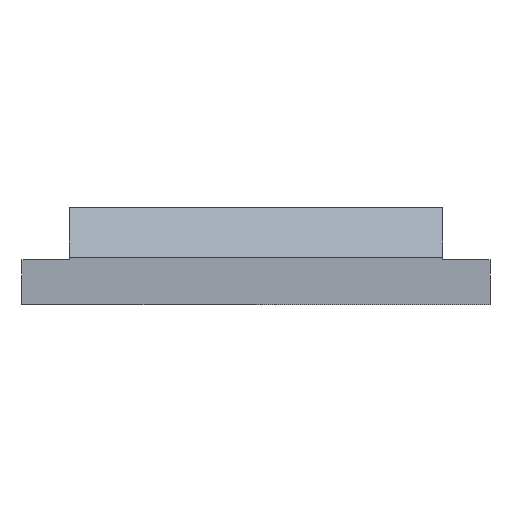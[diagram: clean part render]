
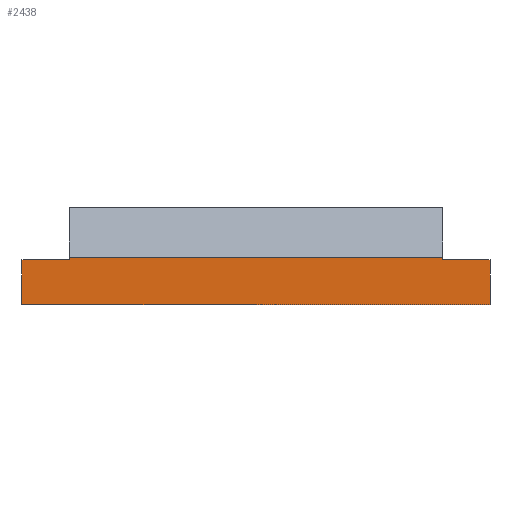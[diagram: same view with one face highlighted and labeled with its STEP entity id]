
A CAD part, front view. The second image highlights one B-rep face of the part: STEP entity #2438.
In plain terms, the highlighted planar face has unit normal (0, -1, 0).
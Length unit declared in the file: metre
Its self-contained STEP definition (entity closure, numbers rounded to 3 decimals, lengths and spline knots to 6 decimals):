
#430=ORIENTED_EDGE('',*,*,#1158,.F.);
#431=ORIENTED_EDGE('',*,*,#1187,.T.);
#432=ORIENTED_EDGE('',*,*,#1182,.T.);
#433=ORIENTED_EDGE('',*,*,#1188,.T.);
#434=ORIENTED_EDGE('',*,*,#1189,.F.);
#435=ORIENTED_EDGE('',*,*,#1168,.F.);
#436=ORIENTED_EDGE('',*,*,#1190,.T.);
#437=ORIENTED_EDGE('',*,*,#1191,.T.);
#1158=EDGE_CURVE('',#1542,#1543,#1720,.T.);
#1168=EDGE_CURVE('',#1551,#1552,#1730,.T.);
#1182=EDGE_CURVE('',#1562,#1561,#1744,.T.);
#1187=EDGE_CURVE('',#1542,#1562,#1749,.T.);
#1188=EDGE_CURVE('',#1561,#1563,#1750,.T.);
#1189=EDGE_CURVE('',#1552,#1563,#1751,.T.);
#1190=EDGE_CURVE('',#1551,#1564,#1752,.T.);
#1191=EDGE_CURVE('',#1564,#1543,#1753,.T.);
#1542=VERTEX_POINT('',#3810);
#1543=VERTEX_POINT('',#3812);
#1551=VERTEX_POINT('',#3831);
#1552=VERTEX_POINT('',#3833);
#1561=VERTEX_POINT('',#3859);
#1562=VERTEX_POINT('',#3861);
#1563=VERTEX_POINT('',#3870);
#1564=VERTEX_POINT('',#3873);
#1720=LINE('',#3811,#1924);
#1730=LINE('',#3832,#1934);
#1744=LINE('',#3860,#1948);
#1749=LINE('',#3868,#1953);
#1750=LINE('',#3869,#1954);
#1751=LINE('',#3871,#1955);
#1752=LINE('',#3872,#1956);
#1753=LINE('',#3874,#1957);
#1924=VECTOR('',#2992,1.);
#1934=VECTOR('',#3006,1.);
#1948=VECTOR('',#3028,1.);
#1953=VECTOR('',#3037,1.);
#1954=VECTOR('',#3038,1.);
#1955=VECTOR('',#3039,1.);
#1956=VECTOR('',#3040,1.);
#1957=VECTOR('',#3041,1.);
#2114=EDGE_LOOP('',(#430,#431,#432,#433,#434,#435,#436,#437));
#2255=FACE_BOUND('',#2114,.T.);
#2393=PLANE('',#2648);
#2438=ADVANCED_FACE('',(#2255),#2393,.T.);
#2648=AXIS2_PLACEMENT_3D('',#3867,#3035,#3036);
#2992=DIRECTION('',(0.,0.,-1.));
#3006=DIRECTION('',(-1.,0.,0.));
#3028=DIRECTION('',(0.,0.,-1.));
#3035=DIRECTION('',(0.,-1.,0.));
#3036=DIRECTION('',(1.,0.,0.));
#3037=DIRECTION('',(-1.,0.,0.));
#3038=DIRECTION('',(-1.,0.,0.));
#3039=DIRECTION('',(0.,0.,1.));
#3040=DIRECTION('',(0.,0.,1.));
#3041=DIRECTION('',(-1.,0.,0.));
#3810=CARTESIAN_POINT('',(-0.182315,-0.0786,0.00625));
#3811=CARTESIAN_POINT('',(-0.182315,-0.0786,0.03125));
#3812=CARTESIAN_POINT('',(-0.182315,-0.0786,0.00615));
#3831=CARTESIAN_POINT('',(-0.180415,-0.0786,0.00435));
#3832=CARTESIAN_POINT('',(-0.189815,-0.0786,0.00435));
#3833=CARTESIAN_POINT('',(-0.199215,-0.0786,0.00435));
#3859=CARTESIAN_POINT('',(-0.197315,-0.0786,0.00615));
#3860=CARTESIAN_POINT('',(-0.197315,-0.0786,0.03125));
#3861=CARTESIAN_POINT('',(-0.197315,-0.0786,0.00625));
#3867=CARTESIAN_POINT('',(-0.003,-0.0786,0.00825));
#3868=CARTESIAN_POINT('',(-0.197315,-0.0786,0.00625));
#3869=CARTESIAN_POINT('',(-0.198265,-0.0786,0.00615));
#3870=CARTESIAN_POINT('',(-0.199215,-0.0786,0.00615));
#3871=CARTESIAN_POINT('',(-0.199215,-0.0786,0.00525));
#3872=CARTESIAN_POINT('',(-0.180415,-0.0786,0.00525));
#3873=CARTESIAN_POINT('',(-0.180415,-0.0786,0.00615));
#3874=CARTESIAN_POINT('',(-0.181365,-0.0786,0.00615));
